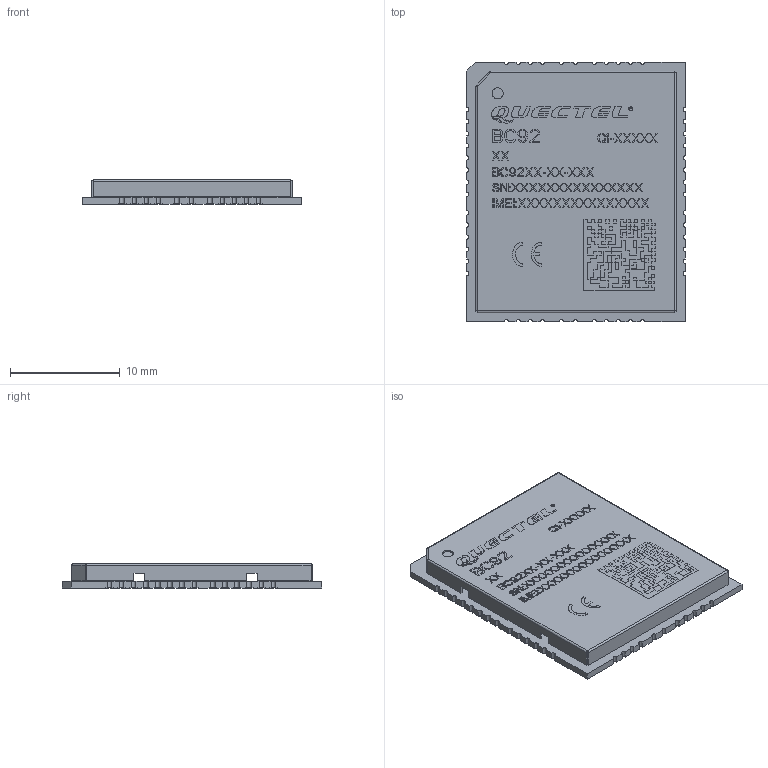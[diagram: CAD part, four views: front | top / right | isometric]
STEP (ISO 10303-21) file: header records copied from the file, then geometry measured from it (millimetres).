
FILE_DESCRIPTION((''),'2;1');
FILE_NAME('QUECTEL_BC92_3D_DIMENSIONS_ASM','2020-04-18T',('rupert.zheng'),(''),'CREO PARAMETRIC BY PTC INC, 2014190','CREO PARAMETRIC BY PTC INC, 2014190','');
FILE_SCHEMA(('CONFIG_CONTROL_DESIGN'));
Length unit declared in the file: millimetre
Products named in the file (3): BC92_PCB; BC92_COVER; QUECTEL_BC92_3D_DIMENSIONS_ASM
Assembly tree (2 placements, depth 2):
  QUECTEL_BC92_3D_DIMENSIONS_ASM
    BC92_PCB
    BC92_COVER
Bounding box: 19.9 x 23.6 x 2.2 mm (x, y, z)
Volume: 354.2 mm3; surface area: 2018.3 mm2
Topology: 2 solids, 2 shells, 2057 faces, 5711 edges, 3740 vertices
Faces by surface type: plane 1951, cylinder 59, extrusion 47
Entity records: 64855 total; most frequent: CARTESIAN_POINT 12185, ORIENTED_EDGE 11422, DIRECTION 9822, EDGE_CURVE 5711, VECTOR 5546, LINE 5499, VERTEX_POINT 3759, EDGE_LOOP 2160
